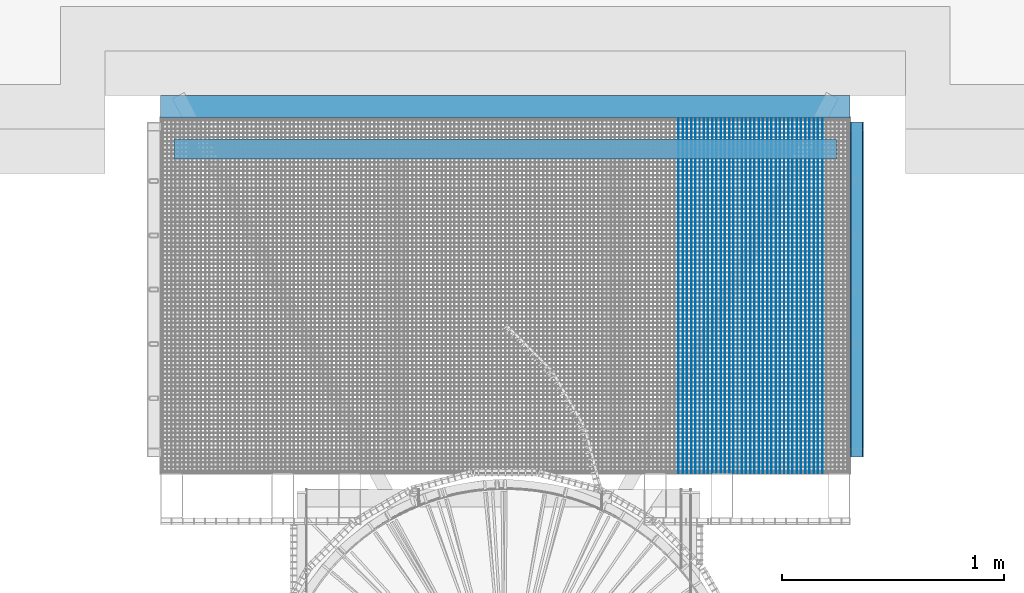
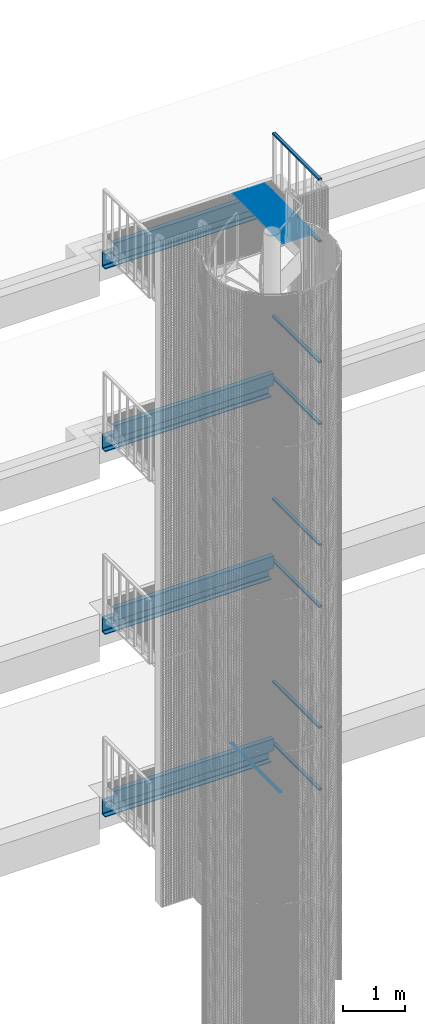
# One storey, part 100 of 1183: 51 beams, 18 elements without a shape of their own.
"""IFC2X3 building model written with IfcOpenShell, lengths in millimetres."""

from ifc_helpers import new_model, si_unit, frame, origin_with_axes, origin_2d_with_axis, place, context, subcontext, project, spatial, rectangle, hollow_rectangle, u_section, extrude, material, type_object, element, aggregate, save


model = new_model("IFC2X3")

# Units and contexts
model_context = context("Model", 3, precision=1e-05, world=origin_with_axes())
body_context = subcontext(model_context, "Body", "Model", "MODEL_VIEW")
ifc_project = project(units=[si_unit("LENGTHUNIT", "METRE", prefix="MILLI"), si_unit("AREAUNIT", "SQUARE_METRE"), si_unit("VOLUMEUNIT", "CUBIC_METRE"), si_unit("MASSUNIT", "GRAM", prefix="KILO"), si_unit("TIMEUNIT", "SECOND"), si_unit("PLANEANGLEUNIT", "RADIAN"), si_unit("SOLIDANGLEUNIT", "STERADIAN"), si_unit("THERMODYNAMICTEMPERATUREUNIT", "DEGREE_CELSIUS"), si_unit("LUMINOUSINTENSITYUNIT", "LUMEN")], contexts=[model_context])

# Site, building, storey
site_placement = place(None, origin_with_axes())
site = spatial("IfcSite", under=ifc_project, at=site_placement, Name="Undefined", CompositionType="ELEMENT")
building_placement = place(site_placement, origin_with_axes())
building = spatial("IfcBuilding", under=site, at=building_placement, Name="Undefined", CompositionType="ELEMENT")
storey_placement = place(building_placement, origin_with_axes())
storey = spatial("IfcBuildingStorey", under=building, at=storey_placement, Name="Undefined", CompositionType="ELEMENT", Elevation=0.0)

# Assembly, beams
assembly_1_placement = place(storey_placement, origin_with_axes())
assembly_1 = element("IfcElementAssembly", 1, at=assembly_1_placement, inside=storey, Name="BORDURE", AssemblyPlace="NOTDEFINED", PredefinedType="NOTDEFINED")
ifc_material_1 = material(Name="STEEL/S235JR")
beam_type_1 = type_object("IfcBeamType", Name="PL2*10", PredefinedType="NOTDEFINED")
beam_1_placement = place(assembly_1_placement, frame((22436.1154247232, 1102.00643381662, 17285.0), z_axis=(0.0, 0.0, 1.0), x_axis=(-4.50599999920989e-06, 0.999999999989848, 0.0)))
beam_1 = element("IfcBeam", 2, at=beam_1_placement, type_object=beam_type_1, material=ifc_material_1, Name="ENTRETOISE", context=body_context, shape_type="SweptSolid", body=[
    extrude(rectangle(XDim=2.0, YDim=10.0, at=origin_2d_with_axis()), frame((1596.0000000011, -1.35186458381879e-18, -7.27595761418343e-12), z_axis=(-1.0, 0.0, 0.0), x_axis=(0.0, -1.0, 0.0)), (0.0, 0.0, 1.0), 1596.0),
])
beam_2_placement = place(assembly_1_placement, frame((22455.1154247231, 1102.00652733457, 17285.0), z_axis=(0.0, 0.0, 1.0), x_axis=(-4.50599999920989e-06, 0.999999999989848, 0.0)))
beam_2 = element("IfcBeam", 3, at=beam_2_placement, type_object=beam_type_1, material=ifc_material_1, Name="ENTRETOISE", context=body_context, shape_type="SweptSolid", body=[
    extrude(rectangle(XDim=2.0, YDim=10.0, at=origin_2d_with_axis()), frame((1596.0000000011, -1.35186458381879e-18, -7.27595761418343e-12), z_axis=(-1.0, 0.0, 0.0), x_axis=(0.0, -1.0, 0.0)), (0.0, 0.0, 1.0), 1596.0),
])
beam_3_placement = place(assembly_1_placement, frame((22474.1154247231, 1102.00662085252, 17285.0), z_axis=(0.0, 0.0, 1.0), x_axis=(-4.50599999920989e-06, 0.999999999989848, 0.0)))
beam_3 = element("IfcBeam", 4, at=beam_3_placement, type_object=beam_type_1, material=ifc_material_1, Name="ENTRETOISE", context=body_context, shape_type="SweptSolid", body=[
    extrude(rectangle(XDim=2.0, YDim=10.0, at=origin_2d_with_axis()), frame((1596.0000000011, -1.35186458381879e-18, -7.27595761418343e-12), z_axis=(-1.0, 0.0, 0.0), x_axis=(0.0, -1.0, 0.0)), (0.0, 0.0, 1.0), 1596.0),
])
beam_4_placement = place(assembly_1_placement, frame((22493.115424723, 1102.00671437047, 17285.0), z_axis=(0.0, 0.0, 1.0), x_axis=(-4.50599999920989e-06, 0.999999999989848, 0.0)))
beam_4 = element("IfcBeam", 5, at=beam_4_placement, type_object=beam_type_1, material=ifc_material_1, Name="ENTRETOISE", context=body_context, shape_type="SweptSolid", body=[
    extrude(rectangle(XDim=2.0, YDim=10.0, at=origin_2d_with_axis()), frame((1596.0000000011, -1.35186458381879e-18, -7.27595761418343e-12), z_axis=(-1.0, 0.0, 0.0), x_axis=(0.0, -1.0, 0.0)), (0.0, 0.0, 1.0), 1596.0),
])
beam_5_placement = place(assembly_1_placement, frame((22512.1154247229, 1102.00680788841, 17285.0), z_axis=(0.0, 0.0, 1.0), x_axis=(-4.50599999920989e-06, 0.999999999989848, 0.0)))
beam_5 = element("IfcBeam", 6, at=beam_5_placement, type_object=beam_type_1, material=ifc_material_1, Name="ENTRETOISE", context=body_context, shape_type="SweptSolid", body=[
    extrude(rectangle(XDim=2.0, YDim=10.0, at=origin_2d_with_axis()), frame((1596.0000000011, -1.35186458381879e-18, -7.27595761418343e-12), z_axis=(-1.0, 0.0, 0.0), x_axis=(0.0, -1.0, 0.0)), (0.0, 0.0, 1.0), 1596.0),
])
beam_6_placement = place(assembly_1_placement, frame((22531.1154247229, 1102.00690140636, 17285.0), z_axis=(0.0, 0.0, 1.0), x_axis=(-4.50599999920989e-06, 0.999999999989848, 0.0)))
beam_6 = element("IfcBeam", 7, at=beam_6_placement, type_object=beam_type_1, material=ifc_material_1, Name="ENTRETOISE", context=body_context, shape_type="SweptSolid", body=[
    extrude(rectangle(XDim=2.0, YDim=10.0, at=origin_2d_with_axis()), frame((1596.0000000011, -1.35186458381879e-18, -7.27595761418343e-12), z_axis=(-1.0, 0.0, 0.0), x_axis=(0.0, -1.0, 0.0)), (0.0, 0.0, 1.0), 1596.0),
])
beam_7_placement = place(assembly_1_placement, frame((22550.1154247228, 1102.00699492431, 17285.0), z_axis=(0.0, 0.0, 1.0), x_axis=(-4.50599999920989e-06, 0.999999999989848, 0.0)))
beam_7 = element("IfcBeam", 8, at=beam_7_placement, type_object=beam_type_1, material=ifc_material_1, Name="ENTRETOISE", context=body_context, shape_type="SweptSolid", body=[
    extrude(rectangle(XDim=2.0, YDim=10.0, at=origin_2d_with_axis()), frame((1596.0000000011, -1.35186458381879e-18, -7.27595761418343e-12), z_axis=(-1.0, 0.0, 0.0), x_axis=(0.0, -1.0, 0.0)), (0.0, 0.0, 1.0), 1596.0),
])
beam_8_placement = place(assembly_1_placement, frame((22569.1154247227, 1102.00708844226, 17285.0), z_axis=(0.0, 0.0, 1.0), x_axis=(-4.50599999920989e-06, 0.999999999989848, 0.0)))
beam_8 = element("IfcBeam", 9, at=beam_8_placement, type_object=beam_type_1, material=ifc_material_1, Name="ENTRETOISE", context=body_context, shape_type="SweptSolid", body=[
    extrude(rectangle(XDim=2.0, YDim=10.0, at=origin_2d_with_axis()), frame((1596.0000000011, -1.35186458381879e-18, -7.27595761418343e-12), z_axis=(-1.0, 0.0, 0.0), x_axis=(0.0, -1.0, 0.0)), (0.0, 0.0, 1.0), 1596.0),
])
beam_9_placement = place(assembly_1_placement, frame((22588.1154247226, 1102.00718196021, 17285.0), z_axis=(0.0, 0.0, 1.0), x_axis=(-4.50599999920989e-06, 0.999999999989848, 0.0)))
beam_9 = element("IfcBeam", 10, at=beam_9_placement, type_object=beam_type_1, material=ifc_material_1, Name="ENTRETOISE", context=body_context, shape_type="SweptSolid", body=[
    extrude(rectangle(XDim=2.0, YDim=10.0, at=origin_2d_with_axis()), frame((1596.0000000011, -1.35186458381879e-18, -7.27595761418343e-12), z_axis=(-1.0, 0.0, 0.0), x_axis=(0.0, -1.0, 0.0)), (0.0, 0.0, 1.0), 1596.0),
])
beam_10_placement = place(assembly_1_placement, frame((22607.1154247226, 1102.00727547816, 17285.0), z_axis=(0.0, 0.0, 1.0), x_axis=(-4.50599999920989e-06, 0.999999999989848, 0.0)))
beam_10 = element("IfcBeam", 11, at=beam_10_placement, type_object=beam_type_1, material=ifc_material_1, Name="ENTRETOISE", context=body_context, shape_type="SweptSolid", body=[
    extrude(rectangle(XDim=2.0, YDim=10.0, at=origin_2d_with_axis()), frame((1596.0000000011, -1.35186458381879e-18, -7.27595761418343e-12), z_axis=(-1.0, 0.0, 0.0), x_axis=(0.0, -1.0, 0.0)), (0.0, 0.0, 1.0), 1596.0),
])
beam_11_placement = place(assembly_1_placement, frame((22626.1154247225, 1102.0073689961, 17285.0), z_axis=(0.0, 0.0, 1.0), x_axis=(-4.50599999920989e-06, 0.999999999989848, 0.0)))
beam_11 = element("IfcBeam", 12, at=beam_11_placement, type_object=beam_type_1, material=ifc_material_1, Name="ENTRETOISE", context=body_context, shape_type="SweptSolid", body=[
    extrude(rectangle(XDim=2.0, YDim=10.0, at=origin_2d_with_axis()), frame((1596.0000000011, -1.35186458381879e-18, -7.27595761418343e-12), z_axis=(-1.0, 0.0, 0.0), x_axis=(0.0, -1.0, 0.0)), (0.0, 0.0, 1.0), 1596.0),
])
beam_12_placement = place(assembly_1_placement, frame((22645.1154247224, 1102.00746251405, 17285.0), z_axis=(0.0, 0.0, 1.0), x_axis=(-4.50599999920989e-06, 0.999999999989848, 0.0)))
beam_12 = element("IfcBeam", 13, at=beam_12_placement, type_object=beam_type_1, material=ifc_material_1, Name="ENTRETOISE", context=body_context, shape_type="SweptSolid", body=[
    extrude(rectangle(XDim=2.0, YDim=10.0, at=origin_2d_with_axis()), frame((1596.0000000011, -1.35186458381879e-18, -7.27595761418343e-12), z_axis=(-1.0, 0.0, 0.0), x_axis=(0.0, -1.0, 0.0)), (0.0, 0.0, 1.0), 1596.0),
])
beam_13_placement = place(assembly_1_placement, frame((22664.1154247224, 1102.007556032, 17285.0), z_axis=(0.0, 0.0, 1.0), x_axis=(-4.50599999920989e-06, 0.999999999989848, 0.0)))
beam_13 = element("IfcBeam", 14, at=beam_13_placement, type_object=beam_type_1, material=ifc_material_1, Name="ENTRETOISE", context=body_context, shape_type="SweptSolid", body=[
    extrude(rectangle(XDim=2.0, YDim=10.0, at=origin_2d_with_axis()), frame((1596.0000000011, -1.35186458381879e-18, -7.27595761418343e-12), z_axis=(-1.0, 0.0, 0.0), x_axis=(0.0, -1.0, 0.0)), (0.0, 0.0, 1.0), 1596.0),
])
beam_14_placement = place(assembly_1_placement, frame((22683.1154247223, 1102.00764954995, 17285.0), z_axis=(0.0, 0.0, 1.0), x_axis=(-4.50599999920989e-06, 0.999999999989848, 0.0)))
beam_14 = element("IfcBeam", 15, at=beam_14_placement, type_object=beam_type_1, material=ifc_material_1, Name="ENTRETOISE", context=body_context, shape_type="SweptSolid", body=[
    extrude(rectangle(XDim=2.0, YDim=10.0, at=origin_2d_with_axis()), frame((1596.0000000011, -1.35186458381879e-18, -7.27595761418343e-12), z_axis=(-1.0, 0.0, 0.0), x_axis=(0.0, -1.0, 0.0)), (0.0, 0.0, 1.0), 1596.0),
])
beam_15_placement = place(assembly_1_placement, frame((22702.1154247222, 1102.0077430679, 17285.0), z_axis=(0.0, 0.0, 1.0), x_axis=(-4.50599999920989e-06, 0.999999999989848, 0.0)))
beam_15 = element("IfcBeam", 16, at=beam_15_placement, type_object=beam_type_1, material=ifc_material_1, Name="ENTRETOISE", context=body_context, shape_type="SweptSolid", body=[
    extrude(rectangle(XDim=2.0, YDim=10.0, at=origin_2d_with_axis()), frame((1596.0000000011, -1.35186458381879e-18, -7.27595761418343e-12), z_axis=(-1.0, 0.0, 0.0), x_axis=(0.0, -1.0, 0.0)), (0.0, 0.0, 1.0), 1596.0),
])
beam_16_placement = place(assembly_1_placement, frame((22721.1154247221, 1102.00783658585, 17285.0), z_axis=(0.0, 0.0, 1.0), x_axis=(-4.50599999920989e-06, 0.999999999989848, 0.0)))
beam_16 = element("IfcBeam", 17, at=beam_16_placement, type_object=beam_type_1, material=ifc_material_1, Name="ENTRETOISE", context=body_context, shape_type="SweptSolid", body=[
    extrude(rectangle(XDim=2.0, YDim=10.0, at=origin_2d_with_axis()), frame((1596.0000000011, -1.35186458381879e-18, -7.27595761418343e-12), z_axis=(-1.0, 0.0, 0.0), x_axis=(0.0, -1.0, 0.0)), (0.0, 0.0, 1.0), 1596.0),
])
beam_17_placement = place(assembly_1_placement, frame((22740.1154247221, 1102.0079301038, 17285.0), z_axis=(0.0, 0.0, 1.0), x_axis=(-4.50599999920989e-06, 0.999999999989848, 0.0)))
beam_17 = element("IfcBeam", 18, at=beam_17_placement, type_object=beam_type_1, material=ifc_material_1, Name="ENTRETOISE", context=body_context, shape_type="SweptSolid", body=[
    extrude(rectangle(XDim=2.0, YDim=10.0, at=origin_2d_with_axis()), frame((1596.0000000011, -1.35186458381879e-18, -7.27595761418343e-12), z_axis=(-1.0, 0.0, 0.0), x_axis=(0.0, -1.0, 0.0)), (0.0, 0.0, 1.0), 1596.0),
])
beam_18_placement = place(assembly_1_placement, frame((22759.115424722, 1102.00802362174, 17285.0), z_axis=(0.0, 0.0, 1.0), x_axis=(-4.50599999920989e-06, 0.999999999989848, 0.0)))
beam_18 = element("IfcBeam", 19, at=beam_18_placement, type_object=beam_type_1, material=ifc_material_1, Name="ENTRETOISE", context=body_context, shape_type="SweptSolid", body=[
    extrude(rectangle(XDim=2.0, YDim=10.0, at=origin_2d_with_axis()), frame((1596.0000000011, -1.35186458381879e-18, -7.27595761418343e-12), z_axis=(-1.0, 0.0, 0.0), x_axis=(0.0, -1.0, 0.0)), (0.0, 0.0, 1.0), 1596.0),
])
beam_19_placement = place(assembly_1_placement, frame((22778.1154247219, 1102.00811713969, 17285.0), z_axis=(0.0, 0.0, 1.0), x_axis=(-4.50599999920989e-06, 0.999999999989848, 0.0)))
beam_19 = element("IfcBeam", 20, at=beam_19_placement, type_object=beam_type_1, material=ifc_material_1, Name="ENTRETOISE", context=body_context, shape_type="SweptSolid", body=[
    extrude(rectangle(XDim=2.0, YDim=10.0, at=origin_2d_with_axis()), frame((1596.0000000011, -1.35186458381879e-18, -7.27595761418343e-12), z_axis=(-1.0, 0.0, 0.0), x_axis=(0.0, -1.0, 0.0)), (0.0, 0.0, 1.0), 1596.0),
])
beam_20_placement = place(assembly_1_placement, frame((22797.1154247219, 1102.00821065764, 17285.0), z_axis=(0.0, 0.0, 1.0), x_axis=(-4.50599999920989e-06, 0.999999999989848, 0.0)))
beam_20 = element("IfcBeam", 21, at=beam_20_placement, type_object=beam_type_1, material=ifc_material_1, Name="ENTRETOISE", context=body_context, shape_type="SweptSolid", body=[
    extrude(rectangle(XDim=2.0, YDim=10.0, at=origin_2d_with_axis()), frame((1596.0000000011, -1.35186458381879e-18, -7.27595761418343e-12), z_axis=(-1.0, 0.0, 0.0), x_axis=(0.0, -1.0, 0.0)), (0.0, 0.0, 1.0), 1596.0),
])
beam_21_placement = place(assembly_1_placement, frame((22816.1154247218, 1102.00830417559, 17285.0), z_axis=(0.0, 0.0, 1.0), x_axis=(-4.50599999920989e-06, 0.999999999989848, 0.0)))
beam_21 = element("IfcBeam", 22, at=beam_21_placement, type_object=beam_type_1, material=ifc_material_1, Name="ENTRETOISE", context=body_context, shape_type="SweptSolid", body=[
    extrude(rectangle(XDim=2.0, YDim=10.0, at=origin_2d_with_axis()), frame((1596.0000000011, -1.35186458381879e-18, -7.27595761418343e-12), z_axis=(-1.0, 0.0, 0.0), x_axis=(0.0, -1.0, 0.0)), (0.0, 0.0, 1.0), 1596.0),
])
beam_22_placement = place(assembly_1_placement, frame((22835.1154247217, 1102.00839769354, 17285.0), z_axis=(0.0, 0.0, 1.0), x_axis=(-4.50599999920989e-06, 0.999999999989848, 0.0)))
beam_22 = element("IfcBeam", 23, at=beam_22_placement, type_object=beam_type_1, material=ifc_material_1, Name="ENTRETOISE", context=body_context, shape_type="SweptSolid", body=[
    extrude(rectangle(XDim=2.0, YDim=10.0, at=origin_2d_with_axis()), frame((1596.0000000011, -1.35186458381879e-18, -7.27595761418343e-12), z_axis=(-1.0, 0.0, 0.0), x_axis=(0.0, -1.0, 0.0)), (0.0, 0.0, 1.0), 1596.0),
])
beam_23_placement = place(assembly_1_placement, frame((22854.1154247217, 1102.00849121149, 17285.0), z_axis=(0.0, 0.0, 1.0), x_axis=(-4.50599999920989e-06, 0.999999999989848, 0.0)))
beam_23 = element("IfcBeam", 24, at=beam_23_placement, type_object=beam_type_1, material=ifc_material_1, Name="ENTRETOISE", context=body_context, shape_type="SweptSolid", body=[
    extrude(rectangle(XDim=2.0, YDim=10.0, at=origin_2d_with_axis()), frame((1596.0000000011, -1.35186458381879e-18, -7.27595761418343e-12), z_axis=(-1.0, 0.0, 0.0), x_axis=(0.0, -1.0, 0.0)), (0.0, 0.0, 1.0), 1596.0),
])
beam_24_placement = place(assembly_1_placement, frame((22873.1154247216, 1102.00858472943, 17285.0), z_axis=(0.0, 0.0, 1.0), x_axis=(-4.50599999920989e-06, 0.999999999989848, 0.0)))
beam_24 = element("IfcBeam", 25, at=beam_24_placement, type_object=beam_type_1, material=ifc_material_1, Name="ENTRETOISE", context=body_context, shape_type="SweptSolid", body=[
    extrude(rectangle(XDim=2.0, YDim=10.0, at=origin_2d_with_axis()), frame((1596.0000000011, -1.35186458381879e-18, -7.27595761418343e-12), z_axis=(-1.0, 0.0, 0.0), x_axis=(0.0, -1.0, 0.0)), (0.0, 0.0, 1.0), 1596.0),
])
beam_25_placement = place(assembly_1_placement, frame((22892.1154247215, 1102.00867824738, 17285.0), z_axis=(0.0, 0.0, 1.0), x_axis=(-4.50599999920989e-06, 0.999999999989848, 0.0)))
beam_25 = element("IfcBeam", 26, at=beam_25_placement, type_object=beam_type_1, material=ifc_material_1, Name="ENTRETOISE", context=body_context, shape_type="SweptSolid", body=[
    extrude(rectangle(XDim=2.0, YDim=10.0, at=origin_2d_with_axis()), frame((1596.0000000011, -1.35186458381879e-18, -7.27595761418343e-12), z_axis=(-1.0, 0.0, 0.0), x_axis=(0.0, -1.0, 0.0)), (0.0, 0.0, 1.0), 1596.0),
])
beam_26_placement = place(assembly_1_placement, frame((22911.1154247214, 1102.00877176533, 17285.0), z_axis=(0.0, 0.0, 1.0), x_axis=(-4.50599999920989e-06, 0.999999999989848, 0.0)))
beam_26 = element("IfcBeam", 27, at=beam_26_placement, type_object=beam_type_1, material=ifc_material_1, Name="ENTRETOISE", context=body_context, shape_type="SweptSolid", body=[
    extrude(rectangle(XDim=2.0, YDim=10.0, at=origin_2d_with_axis()), frame((1596.0000000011, -1.35186458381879e-18, -7.27595761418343e-12), z_axis=(-1.0, 0.0, 0.0), x_axis=(0.0, -1.0, 0.0)), (0.0, 0.0, 1.0), 1596.0),
])
beam_27_placement = place(assembly_1_placement, frame((22930.1154247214, 1102.00886528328, 17285.0), z_axis=(0.0, 0.0, 1.0), x_axis=(-4.50599999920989e-06, 0.999999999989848, 0.0)))
beam_27 = element("IfcBeam", 28, at=beam_27_placement, type_object=beam_type_1, material=ifc_material_1, Name="ENTRETOISE", context=body_context, shape_type="SweptSolid", body=[
    extrude(rectangle(XDim=2.0, YDim=10.0, at=origin_2d_with_axis()), frame((1596.0000000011, -1.35186458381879e-18, -7.27595761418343e-12), z_axis=(-1.0, 0.0, 0.0), x_axis=(0.0, -1.0, 0.0)), (0.0, 0.0, 1.0), 1596.0),
])
beam_28_placement = place(assembly_1_placement, frame((22949.1154247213, 1102.00895880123, 17285.0), z_axis=(0.0, 0.0, 1.0), x_axis=(-4.50599999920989e-06, 0.999999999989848, 0.0)))
beam_28 = element("IfcBeam", 29, at=beam_28_placement, type_object=beam_type_1, material=ifc_material_1, Name="ENTRETOISE", context=body_context, shape_type="SweptSolid", body=[
    extrude(rectangle(XDim=2.0, YDim=10.0, at=origin_2d_with_axis()), frame((1596.0000000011, -1.35186458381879e-18, -7.27595761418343e-12), z_axis=(-1.0, 0.0, 0.0), x_axis=(0.0, -1.0, 0.0)), (0.0, 0.0, 1.0), 1596.0),
])
beam_29_placement = place(assembly_1_placement, frame((22968.1154247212, 1102.00905231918, 17285.0), z_axis=(0.0, 0.0, 1.0), x_axis=(-4.50599999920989e-06, 0.999999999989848, 0.0)))
beam_29 = element("IfcBeam", 30, at=beam_29_placement, type_object=beam_type_1, material=ifc_material_1, Name="ENTRETOISE", context=body_context, shape_type="SweptSolid", body=[
    extrude(rectangle(XDim=2.0, YDim=10.0, at=origin_2d_with_axis()), frame((1596.0000000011, -1.35186458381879e-18, -7.27595761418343e-12), z_axis=(-1.0, 0.0, 0.0), x_axis=(0.0, -1.0, 0.0)), (0.0, 0.0, 1.0), 1596.0),
])
beam_30_placement = place(assembly_1_placement, frame((22987.1154247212, 1102.00914583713, 17285.0), z_axis=(0.0, 0.0, 1.0), x_axis=(-4.50599999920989e-06, 0.999999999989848, 0.0)))
beam_30 = element("IfcBeam", 31, at=beam_30_placement, type_object=beam_type_1, material=ifc_material_1, Name="ENTRETOISE", context=body_context, shape_type="SweptSolid", body=[
    extrude(rectangle(XDim=2.0, YDim=10.0, at=origin_2d_with_axis()), frame((1596.0000000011, -1.35186458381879e-18, -7.27595761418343e-12), z_axis=(-1.0, 0.0, 0.0), x_axis=(0.0, -1.0, 0.0)), (0.0, 0.0, 1.0), 1596.0),
])
beam_31_placement = place(assembly_1_placement, frame((23006.1154247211, 1102.00923935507, 17285.0), z_axis=(0.0, 0.0, 1.0), x_axis=(-4.50599999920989e-06, 0.999999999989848, 0.0)))
beam_31 = element("IfcBeam", 32, at=beam_31_placement, type_object=beam_type_1, material=ifc_material_1, Name="ENTRETOISE", context=body_context, shape_type="SweptSolid", body=[
    extrude(rectangle(XDim=2.0, YDim=10.0, at=origin_2d_with_axis()), frame((1596.0000000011, -1.35186458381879e-18, -7.27595761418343e-12), z_axis=(-1.0, 0.0, 0.0), x_axis=(0.0, -1.0, 0.0)), (0.0, 0.0, 1.0), 1596.0),
])
beam_32_placement = place(assembly_1_placement, frame((23025.115424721, 1102.00933287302, 17285.0), z_axis=(0.0, 0.0, 1.0), x_axis=(-4.50599999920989e-06, 0.999999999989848, 0.0)))
beam_32 = element("IfcBeam", 33, at=beam_32_placement, type_object=beam_type_1, material=ifc_material_1, Name="ENTRETOISE", context=body_context, shape_type="SweptSolid", body=[
    extrude(rectangle(XDim=2.0, YDim=10.0, at=origin_2d_with_axis()), frame((1596.0000000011, -1.35186458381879e-18, -7.27595761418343e-12), z_axis=(-1.0, 0.0, 0.0), x_axis=(0.0, -1.0, 0.0)), (0.0, 0.0, 1.0), 1596.0),
])
aggregate(assembly_1, [beam_1, beam_2, beam_3, beam_4, beam_5, beam_6, beam_7, beam_8, beam_9, beam_10, beam_11, beam_12, beam_13, beam_14, beam_15, beam_16, beam_17, beam_18, beam_19, beam_20, beam_21, beam_22, beam_23, beam_24, beam_25, beam_26, beam_27, beam_28, beam_29, beam_30, beam_31, beam_32])

assembly_2_placement = place(storey_placement, origin_with_axes())
assembly_2 = element("IfcElementAssembly", 34, at=assembly_2_placement, inside=storey, Name="BORDURE", AssemblyPlace="NOTDEFINED", PredefinedType="NOTDEFINED")
beam_33_placement = place(assembly_2_placement, frame((22379.1154247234, 1102.00615326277, 6485.0), z_axis=(0.0, 0.0, 1.0), x_axis=(-4.50599999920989e-06, 0.999999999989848, 0.0)))
beam_33 = element("IfcBeam", 35, at=beam_33_placement, type_object=beam_type_1, material=ifc_material_1, Name="ENTRETOISE", context=body_context, shape_type="SweptSolid", body=[
    extrude(rectangle(XDim=2.0, YDim=10.0, at=origin_2d_with_axis()), frame((1596.0000000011, -1.35186458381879e-18, -7.27595761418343e-12), z_axis=(-1.0, 0.0, 0.0), x_axis=(0.0, -1.0, 0.0)), (0.0, 0.0, 1.0), 1596.0),
])
beam_34_placement = place(assembly_2_placement, frame((22398.1154247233, 1102.00624678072, 6485.0), z_axis=(0.0, 0.0, 1.0), x_axis=(-4.50599999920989e-06, 0.999999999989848, 0.0)))
beam_34 = element("IfcBeam", 36, at=beam_34_placement, type_object=beam_type_1, material=ifc_material_1, Name="ENTRETOISE", context=body_context, shape_type="SweptSolid", body=[
    extrude(rectangle(XDim=2.0, YDim=10.0, at=origin_2d_with_axis()), frame((1596.0000000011, -1.35186458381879e-18, -7.27595761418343e-12), z_axis=(-1.0, 0.0, 0.0), x_axis=(0.0, -1.0, 0.0)), (0.0, 0.0, 1.0), 1596.0),
])
beam_35_placement = place(assembly_2_placement, frame((22417.1154247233, 1102.00634029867, 6485.0), z_axis=(0.0, 0.0, 1.0), x_axis=(-4.50599999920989e-06, 0.999999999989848, 0.0)))
beam_35 = element("IfcBeam", 37, at=beam_35_placement, type_object=beam_type_1, material=ifc_material_1, Name="ENTRETOISE", context=body_context, shape_type="SweptSolid", body=[
    extrude(rectangle(XDim=2.0, YDim=10.0, at=origin_2d_with_axis()), frame((1596.0000000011, -1.35186458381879e-18, -7.27595761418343e-12), z_axis=(-1.0, 0.0, 0.0), x_axis=(0.0, -1.0, 0.0)), (0.0, 0.0, 1.0), 1596.0),
])
aggregate(assembly_2, [beam_33, beam_34, beam_35])

# Assembly, beam
assembly_3_placement = place(storey_placement, origin_with_axes())
assembly_3 = element("IfcElementAssembly", 38, at=assembly_3_placement, inside=storey, Name="RAILING", AssemblyPlace="NOTDEFINED", PredefinedType="NOTDEFINED")
beam_type_2 = type_object("IfcBeamType", Name="TUBE-R-60*40*3", PredefinedType="NOTDEFINED")
beam_36_placement = place(assembly_3_placement, frame((23180.0704345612, 1175.01007484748, 17020.0), z_axis=(-0.999999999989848, -4.50599999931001e-06, 0.0), x_axis=(-4.50599999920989e-06, 0.999999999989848, 0.0)))
beam_36 = element("IfcBeam", 39, at=beam_36_placement, type_object=beam_type_2, material=ifc_material_1, Name="RAILING", context=body_context, shape_type="SweptSolid", body=[
    extrude(hollow_rectangle(XDim=40.0, YDim=60.0, WallThickness=3.0, InnerFilletRadius=3.0, OuterFilletRadius=6.0, at=origin_2d_with_axis()), frame((1504.99832798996, 3.63797880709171e-12, -1.27478316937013e-18), z_axis=(-1.0, 0.0, 0.0), x_axis=(0.0, -1.0, 0.0)), (0.0, 0.0, 1.0), 1505.0),
])
aggregate(assembly_3, [beam_36])

assembly_4_placement = place(storey_placement, origin_with_axes())
assembly_4 = element("IfcElementAssembly", 40, at=assembly_4_placement, inside=storey, Name="RAILING", AssemblyPlace="NOTDEFINED", PredefinedType="NOTDEFINED")
beam_37_placement = place(assembly_4_placement, frame((23180.0704345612, 1175.01007484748, 18240.0), z_axis=(-0.999999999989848, -4.50599999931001e-06, 0.0), x_axis=(-4.50599999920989e-06, 0.999999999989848, 0.0)))
beam_37 = element("IfcBeam", 41, at=beam_37_placement, type_object=beam_type_2, material=ifc_material_1, Name="RAILING", context=body_context, shape_type="SweptSolid", body=[
    extrude(hollow_rectangle(XDim=40.0, YDim=60.0, WallThickness=3.0, InnerFilletRadius=3.0, OuterFilletRadius=6.0, at=origin_2d_with_axis()), frame((1504.99832798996, 3.63797880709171e-12, -1.27478316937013e-18), z_axis=(-1.0, 0.0, 0.0), x_axis=(0.0, -1.0, 0.0)), (0.0, 0.0, 1.0), 1505.0),
])
aggregate(assembly_4, [beam_37])

assembly_5_placement = place(storey_placement, origin_with_axes())
assembly_5 = element("IfcElementAssembly", 42, at=assembly_5_placement, inside=storey, Name="RAILING", AssemblyPlace="NOTDEFINED", PredefinedType="NOTDEFINED")
beam_38_placement = place(assembly_5_placement, frame((23180.0704345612, 1175.01007484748, 13420.0), z_axis=(-0.999999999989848, -4.50599999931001e-06, 0.0), x_axis=(-4.50599999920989e-06, 0.999999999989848, 0.0)))
beam_38 = element("IfcBeam", 43, at=beam_38_placement, type_object=beam_type_2, material=ifc_material_1, Name="RAILING", context=body_context, shape_type="SweptSolid", body=[
    extrude(hollow_rectangle(XDim=40.0, YDim=60.0, WallThickness=3.0, InnerFilletRadius=3.0, OuterFilletRadius=6.0, at=origin_2d_with_axis()), frame((1504.99832798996, 3.63797880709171e-12, -1.27478316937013e-18), z_axis=(-1.0, 0.0, 0.0), x_axis=(0.0, -1.0, 0.0)), (0.0, 0.0, 1.0), 1505.0),
])
aggregate(assembly_5, [beam_38])

assembly_6_placement = place(storey_placement, origin_with_axes())
assembly_6 = element("IfcElementAssembly", 44, at=assembly_6_placement, inside=storey, Name="RAILING", AssemblyPlace="NOTDEFINED", PredefinedType="NOTDEFINED")
beam_39_placement = place(assembly_6_placement, frame((23180.0704345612, 1175.01007484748, 14640.0), z_axis=(-0.999999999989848, -4.50599999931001e-06, 0.0), x_axis=(-4.50599999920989e-06, 0.999999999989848, 0.0)))
beam_39 = element("IfcBeam", 45, at=beam_39_placement, type_object=beam_type_2, material=ifc_material_1, Name="RAILING", context=body_context, shape_type="SweptSolid", body=[
    extrude(hollow_rectangle(XDim=40.0, YDim=60.0, WallThickness=3.0, InnerFilletRadius=3.0, OuterFilletRadius=6.0, at=origin_2d_with_axis()), frame((1504.99832798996, 3.63797880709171e-12, -1.27478316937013e-18), z_axis=(-1.0, 0.0, 0.0), x_axis=(0.0, -1.0, 0.0)), (0.0, 0.0, 1.0), 1505.0),
])
aggregate(assembly_6, [beam_39])

assembly_7_placement = place(storey_placement, origin_with_axes())
assembly_7 = element("IfcElementAssembly", 46, at=assembly_7_placement, inside=storey, Name="RAILING", AssemblyPlace="NOTDEFINED", PredefinedType="NOTDEFINED")
beam_40_placement = place(assembly_7_placement, frame((23180.0704345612, 1175.01007484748, 9820.0), z_axis=(-0.999999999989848, -4.50599999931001e-06, 0.0), x_axis=(-4.50599999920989e-06, 0.999999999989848, 0.0)))
beam_40 = element("IfcBeam", 47, at=beam_40_placement, type_object=beam_type_2, material=ifc_material_1, Name="RAILING", context=body_context, shape_type="SweptSolid", body=[
    extrude(hollow_rectangle(XDim=40.0, YDim=60.0, WallThickness=3.0, InnerFilletRadius=3.0, OuterFilletRadius=6.0, at=origin_2d_with_axis()), frame((1504.99832798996, 3.63797880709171e-12, -1.27478316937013e-18), z_axis=(-1.0, 0.0, 0.0), x_axis=(0.0, -1.0, 0.0)), (0.0, 0.0, 1.0), 1505.0),
])
aggregate(assembly_7, [beam_40])

assembly_8_placement = place(storey_placement, origin_with_axes())
assembly_8 = element("IfcElementAssembly", 48, at=assembly_8_placement, inside=storey, Name="RAILING", AssemblyPlace="NOTDEFINED", PredefinedType="NOTDEFINED")
beam_41_placement = place(assembly_8_placement, frame((23180.0704345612, 1175.01007484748, 11040.0), z_axis=(-0.999999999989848, -4.50599999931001e-06, 0.0), x_axis=(-4.50599999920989e-06, 0.999999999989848, 0.0)))
beam_41 = element("IfcBeam", 49, at=beam_41_placement, type_object=beam_type_2, material=ifc_material_1, Name="RAILING", context=body_context, shape_type="SweptSolid", body=[
    extrude(hollow_rectangle(XDim=40.0, YDim=60.0, WallThickness=3.0, InnerFilletRadius=3.0, OuterFilletRadius=6.0, at=origin_2d_with_axis()), frame((1504.99832798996, 3.63797880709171e-12, -1.27478316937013e-18), z_axis=(-1.0, 0.0, 0.0), x_axis=(0.0, -1.0, 0.0)), (0.0, 0.0, 1.0), 1505.0),
])
aggregate(assembly_8, [beam_41])

assembly_9_placement = place(storey_placement, origin_with_axes())
assembly_9 = element("IfcElementAssembly", 50, at=assembly_9_placement, inside=storey, Name="RAILING", AssemblyPlace="NOTDEFINED", PredefinedType="NOTDEFINED")
beam_42_placement = place(assembly_9_placement, frame((23180.0704345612, 1175.01007484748, 6220.0), z_axis=(-0.999999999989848, -4.50599999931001e-06, 0.0), x_axis=(-4.50599999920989e-06, 0.999999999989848, 0.0)))
beam_42 = element("IfcBeam", 51, at=beam_42_placement, type_object=beam_type_2, material=ifc_material_1, Name="RAILING", context=body_context, shape_type="SweptSolid", body=[
    extrude(hollow_rectangle(XDim=40.0, YDim=60.0, WallThickness=3.0, InnerFilletRadius=3.0, OuterFilletRadius=6.0, at=origin_2d_with_axis()), frame((1504.99832798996, 3.63797880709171e-12, -1.27478316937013e-18), z_axis=(-1.0, 0.0, 0.0), x_axis=(0.0, -1.0, 0.0)), (0.0, 0.0, 1.0), 1505.0),
])
aggregate(assembly_9, [beam_42])

assembly_10_placement = place(storey_placement, origin_with_axes())
assembly_10 = element("IfcElementAssembly", 52, at=assembly_10_placement, inside=storey, Name="RAILING", AssemblyPlace="NOTDEFINED", PredefinedType="NOTDEFINED")
beam_43_placement = place(assembly_10_placement, frame((23180.0704345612, 1175.01007484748, 7440.0), z_axis=(-0.999999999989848, -4.50599999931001e-06, 0.0), x_axis=(-4.50599999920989e-06, 0.999999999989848, 0.0)))
beam_43 = element("IfcBeam", 53, at=beam_43_placement, type_object=beam_type_2, material=ifc_material_1, Name="RAILING", context=body_context, shape_type="SweptSolid", body=[
    extrude(hollow_rectangle(XDim=40.0, YDim=60.0, WallThickness=3.0, InnerFilletRadius=3.0, OuterFilletRadius=6.0, at=origin_2d_with_axis()), frame((1504.99832798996, 3.63797880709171e-12, -1.27478316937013e-18), z_axis=(-1.0, 0.0, 0.0), x_axis=(0.0, -1.0, 0.0)), (0.0, 0.0, 1.0), 1505.0),
])
aggregate(assembly_10, [beam_43])

assembly_11_placement = place(storey_placement, origin_with_axes())
assembly_11 = element("IfcElementAssembly", 54, at=assembly_11_placement, inside=storey, Name="TRAVERSE", AssemblyPlace="NOTDEFINED", PredefinedType="NOTDEFINED")
ifc_material_2 = material(Name="STEEL/S275JR")
beam_type_3 = type_object("IfcBeamType", Name="UPE300", PredefinedType="NOTDEFINED")
beam_44_placement = place(assembly_11_placement, frame((20050.1127617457, 2749.84818067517, 16790.0), z_axis=(0.0, 0.0, 1.0), x_axis=(1.0, 0.0, 0.0)))
beam_44 = element("IfcBeam", 55, at=beam_44_placement, type_object=beam_type_3, material=ifc_material_2, Name="TRAVERSE", context=body_context, shape_type="SweptSolid", body=[
    extrude(u_section(Depth=300.0, FlangeWidth=100.0, WebThickness=9.5, FlangeThickness=15.0, FilletRadius=15.0, at=origin_2d_with_axis()), frame((3099.99084151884, -4.54747022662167e-13, 3.63797880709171e-12), z_axis=(-1.0, 0.0, 0.0), x_axis=(0.0, -1.0, 0.0)), (0.0, 0.0, 1.0), 3099.99),
])
aggregate(assembly_11, [beam_44])

assembly_12_placement = place(storey_placement, origin_with_axes())
assembly_12 = element("IfcElementAssembly", 56, at=assembly_12_placement, inside=storey, Name="TRAVERSE", AssemblyPlace="NOTDEFINED", PredefinedType="NOTDEFINED")
beam_45_placement = place(assembly_12_placement, frame((20050.1127617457, 2749.92818067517, 13190.0), z_axis=(0.0, 0.0, 1.0), x_axis=(1.0, 0.0, 0.0)))
beam_45 = element("IfcBeam", 57, at=beam_45_placement, type_object=beam_type_3, material=ifc_material_2, Name="TRAVERSE", context=body_context, shape_type="SweptSolid", body=[
    extrude(u_section(Depth=300.0, FlangeWidth=100.0, WebThickness=9.5, FlangeThickness=15.0, FilletRadius=15.0, at=origin_2d_with_axis()), frame((3099.99084151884, -4.54747022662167e-13, 3.63797880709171e-12), z_axis=(-1.0, 0.0, 0.0), x_axis=(0.0, -1.0, 0.0)), (0.0, 0.0, 1.0), 3099.99),
])
aggregate(assembly_12, [beam_45])

assembly_13_placement = place(storey_placement, origin_with_axes())
assembly_13 = element("IfcElementAssembly", 58, at=assembly_13_placement, inside=storey, Name="TRAVERSE", AssemblyPlace="NOTDEFINED", PredefinedType="NOTDEFINED")
beam_46_placement = place(assembly_13_placement, frame((20050.1127617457, 2750.00818067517, 9590.0), z_axis=(0.0, 0.0, 1.0), x_axis=(1.0, 0.0, 0.0)))
beam_46 = element("IfcBeam", 59, at=beam_46_placement, type_object=beam_type_3, material=ifc_material_2, Name="TRAVERSE", context=body_context, shape_type="SweptSolid", body=[
    extrude(u_section(Depth=300.0, FlangeWidth=100.0, WebThickness=9.5, FlangeThickness=15.0, FilletRadius=15.0, at=origin_2d_with_axis()), frame((3099.99084151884, -4.54747022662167e-13, 3.63797880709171e-12), z_axis=(-1.0, 0.0, 0.0), x_axis=(0.0, -1.0, 0.0)), (0.0, 0.0, 1.0), 3099.99),
])
aggregate(assembly_13, [beam_46])

assembly_14_placement = place(storey_placement, origin_with_axes())
assembly_14 = element("IfcElementAssembly", 60, at=assembly_14_placement, inside=storey, Name="TRAVERSE", AssemblyPlace="NOTDEFINED", PredefinedType="NOTDEFINED")
beam_47_placement = place(assembly_14_placement, frame((20050.1127617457, 2750.08818067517, 5990.0), z_axis=(0.0, 0.0, 1.0), x_axis=(1.0, 0.0, 0.0)))
beam_47 = element("IfcBeam", 61, at=beam_47_placement, type_object=beam_type_3, material=ifc_material_2, Name="TRAVERSE", context=body_context, shape_type="SweptSolid", body=[
    extrude(u_section(Depth=300.0, FlangeWidth=100.0, WebThickness=9.5, FlangeThickness=15.0, FilletRadius=15.0, at=origin_2d_with_axis()), frame((3099.99084151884, -4.54747022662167e-13, 3.63797880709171e-12), z_axis=(-1.0, 0.0, 0.0), x_axis=(0.0, -1.0, 0.0)), (0.0, 0.0, 1.0), 3099.99),
])
aggregate(assembly_14, [beam_47])

assembly_15_placement = place(storey_placement, origin_with_axes())
assembly_15 = element("IfcElementAssembly", 62, at=assembly_15_placement, inside=storey, AssemblyPlace="NOTDEFINED", PredefinedType="NOTDEFINED")
beam_type_4 = type_object("IfcBeamType", Name="UPE240", PredefinedType="NOTDEFINED")
beam_48_placement = place(assembly_15_placement, frame((20110.1198202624, 2559.99468994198, 17120.0), z_axis=(0.0, 0.0, -1.0), x_axis=(0.999999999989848, 4.50600000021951e-06, 0.0)))
beam_48 = element("IfcBeam", 63, at=beam_48_placement, type_object=beam_type_4, material=ifc_material_1, Name="EXISTANTS", context=body_context, shape_type="SweptSolid", body=[
    extrude(u_section(Depth=240.0, FlangeWidth=90.0, WebThickness=7.0, FlangeThickness=12.5, FilletRadius=15.0, at=origin_2d_with_axis()), frame((2979.99084475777, 0.0, 3.63797880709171e-12), z_axis=(-1.0, 0.0, 0.0), x_axis=(0.0, -1.0, 0.0)), (0.0, 0.0, 1.0), 2979.99),
])
aggregate(assembly_15, [beam_48])

assembly_16_placement = place(storey_placement, origin_with_axes())
assembly_16 = element("IfcElementAssembly", 64, at=assembly_16_placement, inside=storey, AssemblyPlace="NOTDEFINED", PredefinedType="NOTDEFINED")
beam_49_placement = place(assembly_16_placement, frame((20110.1198202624, 2559.99468994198, 13520.0), z_axis=(0.0, 0.0, -1.0), x_axis=(0.999999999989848, 4.50600000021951e-06, 0.0)))
beam_49 = element("IfcBeam", 65, at=beam_49_placement, type_object=beam_type_4, material=ifc_material_1, Name="EXISTANTS", context=body_context, shape_type="SweptSolid", body=[
    extrude(u_section(Depth=240.0, FlangeWidth=90.0, WebThickness=7.0, FlangeThickness=12.5, FilletRadius=15.0, at=origin_2d_with_axis()), frame((2979.99084475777, 0.0, 3.63797880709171e-12), z_axis=(-1.0, 0.0, 0.0), x_axis=(0.0, -1.0, 0.0)), (0.0, 0.0, 1.0), 2979.99),
])
aggregate(assembly_16, [beam_49])

assembly_17_placement = place(storey_placement, origin_with_axes())
assembly_17 = element("IfcElementAssembly", 66, at=assembly_17_placement, inside=storey, AssemblyPlace="NOTDEFINED", PredefinedType="NOTDEFINED")
beam_50_placement = place(assembly_17_placement, frame((20110.1198202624, 2559.99468994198, 9920.0), z_axis=(0.0, 0.0, -1.0), x_axis=(0.999999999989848, 4.50600000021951e-06, 0.0)))
beam_50 = element("IfcBeam", 67, at=beam_50_placement, type_object=beam_type_4, material=ifc_material_1, Name="EXISTANTS", context=body_context, shape_type="SweptSolid", body=[
    extrude(u_section(Depth=240.0, FlangeWidth=90.0, WebThickness=7.0, FlangeThickness=12.5, FilletRadius=15.0, at=origin_2d_with_axis()), frame((2979.99084475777, 0.0, 3.63797880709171e-12), z_axis=(-1.0, 0.0, 0.0), x_axis=(0.0, -1.0, 0.0)), (0.0, 0.0, 1.0), 2979.99),
])
aggregate(assembly_17, [beam_50])

assembly_18_placement = place(storey_placement, origin_with_axes())
assembly_18 = element("IfcElementAssembly", 68, at=assembly_18_placement, inside=storey, AssemblyPlace="NOTDEFINED", PredefinedType="NOTDEFINED")
beam_51_placement = place(assembly_18_placement, frame((20110.1198202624, 2559.99468994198, 6320.0), z_axis=(0.0, 0.0, -1.0), x_axis=(0.999999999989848, 4.50600000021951e-06, 0.0)))
beam_51 = element("IfcBeam", 69, at=beam_51_placement, type_object=beam_type_4, material=ifc_material_1, Name="EXISTANTS", context=body_context, shape_type="SweptSolid", body=[
    extrude(u_section(Depth=240.0, FlangeWidth=90.0, WebThickness=7.0, FlangeThickness=12.5, FilletRadius=15.0, at=origin_2d_with_axis()), frame((2979.99084475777, 0.0, 3.63797880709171e-12), z_axis=(-1.0, 0.0, 0.0), x_axis=(0.0, -1.0, 0.0)), (0.0, 0.0, 1.0), 2979.99),
])
aggregate(assembly_18, [beam_51])

save(model, "model.ifc")
